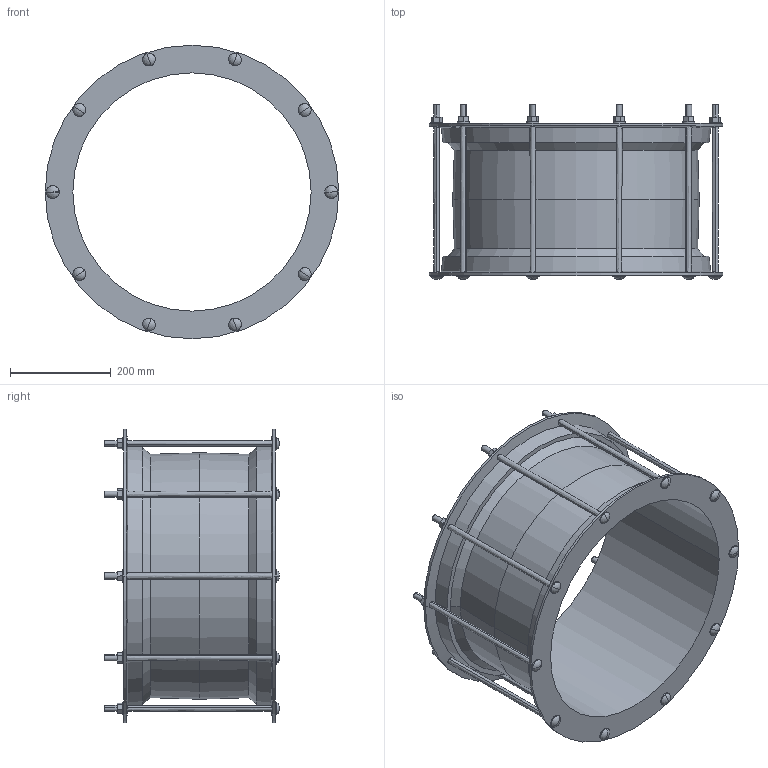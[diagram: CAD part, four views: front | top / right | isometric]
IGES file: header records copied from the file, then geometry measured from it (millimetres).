
Start section:  PTC IGES file: 455_472.igs
Global section: file name: 455_472.igs; native system: Creo Parametric by PTC Inc.; preprocessor: 2016130; author: mfairey; organization: Unknown; date: 20181218.121755; units: millimetre
Bounding box: 584 x 348 x 584 mm (x, y, z)
Surface area: 1356977.4 mm2 (no closed solid volume)
Topology: 0 solids, 0 shells, 216 faces, 1028 edges, 1008 vertices
Faces by surface type: revolution 122, bspline 94
